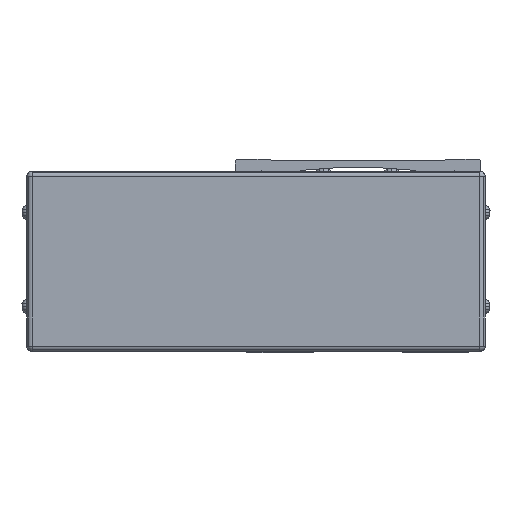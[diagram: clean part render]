
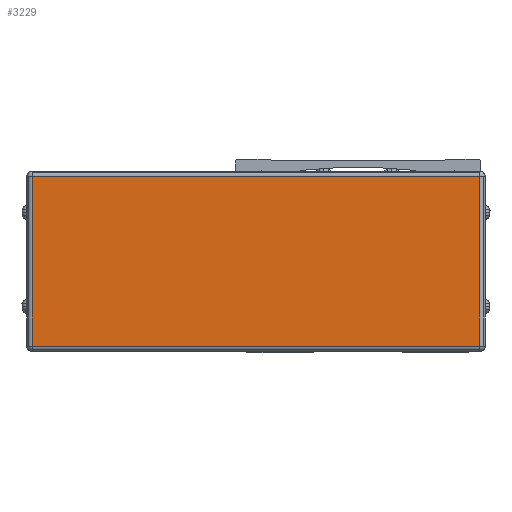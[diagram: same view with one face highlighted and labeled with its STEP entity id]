
A CAD part, front view. The second image highlights one B-rep face of the part: STEP entity #3229.
In plain terms, the highlighted planar face has unit normal (0, -1, 0).
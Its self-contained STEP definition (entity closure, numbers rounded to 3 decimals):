
#3229=ADVANCED_FACE('',(#7841),#7842,.F.);
#7841=FACE_OUTER_BOUND('',#14313,.T.);
#7842=PLANE('',#14314);
#14313=EDGE_LOOP('',(#24910,#24911,#24912,#24913));
#14314=AXIS2_PLACEMENT_3D('',#24914,#24915,#24916);
#24910=ORIENTED_EDGE('',*,*,#41043,.T.);
#24911=ORIENTED_EDGE('',*,*,#39731,.T.);
#24912=ORIENTED_EDGE('',*,*,#40983,.T.);
#24913=ORIENTED_EDGE('',*,*,#41044,.T.);
#24914=CARTESIAN_POINT('',(-39.,-288.778,-42.5));
#24915=DIRECTION('',(0.0,1.0,-0.0));
#24916=DIRECTION('',(-1.0,0.0,0.0));
#39731=EDGE_CURVE('',#47075,#47580,#48065,.T.);
#40983=EDGE_CURVE('',#47580,#50087,#50089,.T.);
#41043=EDGE_CURVE('',#50181,#47075,#50182,.T.);
#41044=EDGE_CURVE('',#50087,#50181,#50183,.T.);
#47075=VERTEX_POINT('',#58541);
#47580=VERTEX_POINT('',#59265);
#48065=LINE('',#59939,#59940);
#50087=VERTEX_POINT('',#63061);
#50089=LINE('',#63063,#63064);
#50181=VERTEX_POINT('',#63187);
#50182=LINE('',#63188,#63189);
#50183=LINE('',#63190,#63191);
#58541=CARTESIAN_POINT('',(46.7,-288.778,-40.5));
#59265=CARTESIAN_POINT('',(46.7,-288.778,24.5));
#59939=CARTESIAN_POINT('',(46.7,-288.778,-42.5));
#59940=VECTOR('',#73687,10.0);
#63061=CARTESIAN_POINT('',(-124.7,-288.778,24.5));
#63063=CARTESIAN_POINT('',(-39.,-288.778,24.5));
#63064=VECTOR('',#75117,10.0);
#63187=CARTESIAN_POINT('',(-124.7,-288.778,-40.5));
#63188=CARTESIAN_POINT('',(-39.,-288.778,-40.5));
#63189=VECTOR('',#75182,10.0);
#63190=CARTESIAN_POINT('',(-124.7,-288.778,-42.5));
#63191=VECTOR('',#75183,10.0);
#73687=DIRECTION('',(0.0,0.0,1.0));
#75117=DIRECTION('',(-1.0,0.0,0.0));
#75182=DIRECTION('',(1.0,0.0,0.0));
#75183=DIRECTION('',(-0.0,0.0,-1.0));
